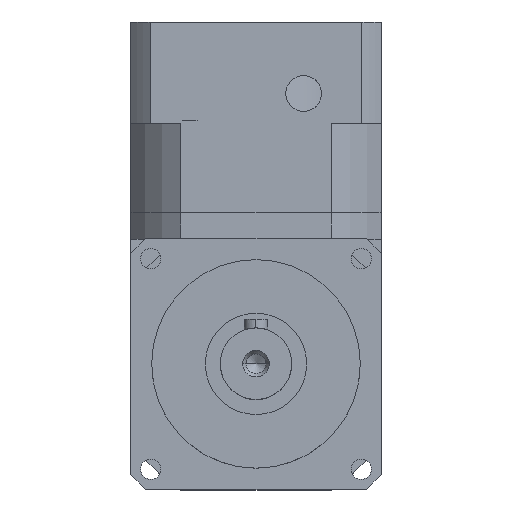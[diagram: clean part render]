
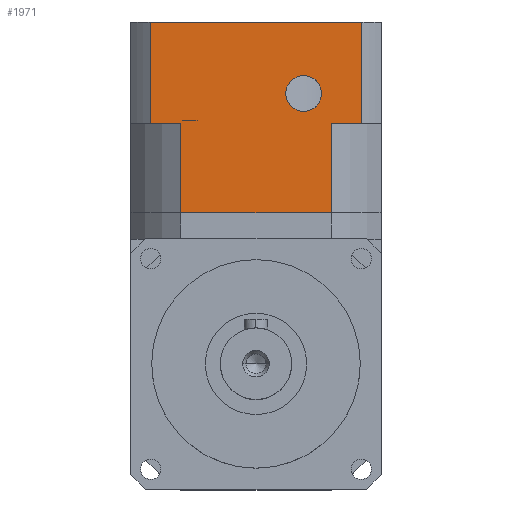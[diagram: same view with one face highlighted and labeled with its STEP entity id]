
A CAD part, top view. The second image highlights one B-rep face of the part: STEP entity #1971.
In plain terms, the highlighted planar face has unit normal (0, 0, 1) as drawn and (0, 1, 0) by its records, which use the part's own axes.
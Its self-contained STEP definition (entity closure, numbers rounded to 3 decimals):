
#102 = ORIENTED_EDGE ( 'NONE', *, *, #5037, .F. ) ;
#113 = CARTESIAN_POINT ( 'NONE',  ( 8., 21., 9. ) ) ;
#172 = EDGE_CURVE ( 'NONE', #1414, #3955, #10490, .T. ) ;
#196 = ORIENTED_EDGE ( 'NONE', *, *, #8836, .F. ) ;
#255 = VERTEX_POINT ( 'NONE', #5818 ) ;
#704 = CARTESIAN_POINT ( 'NONE',  ( 8., 21., 15. ) ) ;
#717 = AXIS2_PLACEMENT_3D ( 'NONE', #4479, #6286, #8852 ) ;
#977 = DIRECTION ( 'NONE',  ( 0., 0., -1. ) ) ;
#1189 = EDGE_CURVE ( 'NONE', #9912, #9079, #10108, .T. ) ;
#1240 = FACE_OUTER_BOUND ( 'NONE', #4260, .T. ) ;
#1252 = VECTOR ( 'NONE', #3737, 1000. ) ;
#1414 = VERTEX_POINT ( 'NONE', #9604 ) ;
#1463 = DIRECTION ( 'NONE',  ( 0., 0., 1. ) ) ;
#1652 = ORIENTED_EDGE ( 'NONE', *, *, #5496, .F. ) ;
#1962 = VECTOR ( 'NONE', #8668, 1000. ) ;
#1971 = ADVANCED_FACE ( 'NONE', ( #7828, #1240 ), #9516, .F. ) ;
#2002 = CARTESIAN_POINT ( 'NONE',  ( -12.619, 21., 32. ) ) ;
#2084 = VECTOR ( 'NONE', #5835, 1000. ) ;
#2183 = CARTESIAN_POINT ( 'NONE',  ( -21., 21., 32. ) ) ;
#2944 = EDGE_CURVE ( 'NONE', #8510, #10773, #6843, .T. ) ;
#3094 = CARTESIAN_POINT ( 'NONE',  ( -21., 21., 17. ) ) ;
#3132 = VECTOR ( 'NONE', #977, 1000. ) ;
#3368 = CIRCLE ( 'NONE', #717, 3. ) ;
#3387 = VERTEX_POINT ( 'NONE', #5313 ) ;
#3563 = EDGE_CURVE ( 'NONE', #3387, #10685, #8444, .T. ) ;
#3611 = CARTESIAN_POINT ( 'NONE',  ( -17.755, 21., 17. ) ) ;
#3685 = DIRECTION ( 'NONE',  ( 1., 0., 0. ) ) ;
#3737 = DIRECTION ( 'NONE',  ( -1., 0., 0. ) ) ;
#3892 = VECTOR ( 'NONE', #4025, 1000. ) ;
#3906 = DIRECTION ( 'NONE',  ( 0., 1., 0. ) ) ;
#3920 = ORIENTED_EDGE ( 'NONE', *, *, #2944, .F. ) ;
#3955 = VERTEX_POINT ( 'NONE', #8875 ) ;
#4025 = DIRECTION ( 'NONE',  ( -1., 0., 0. ) ) ;
#4231 = CARTESIAN_POINT ( 'NONE',  ( -17.755, 21., 32. ) ) ;
#4239 = LINE ( 'NONE', #6724, #3892 ) ;
#4260 = EDGE_LOOP ( 'NONE', ( #8424, #196, #4772, #102, #5176, #6787, #4801, #6057 ) ) ;
#4479 = CARTESIAN_POINT ( 'NONE',  ( 8., 21., 12. ) ) ;
#4526 = CARTESIAN_POINT ( 'NONE',  ( 12.619, 21., 32. ) ) ;
#4772 = ORIENTED_EDGE ( 'NONE', *, *, #172, .F. ) ;
#4801 = ORIENTED_EDGE ( 'NONE', *, *, #6871, .F. ) ;
#4822 = LINE ( 'NONE', #8228, #7809 ) ;
#5037 = EDGE_CURVE ( 'NONE', #255, #1414, #4822, .T. ) ;
#5176 = ORIENTED_EDGE ( 'NONE', *, *, #6595, .F. ) ;
#5185 = LINE ( 'NONE', #10423, #1962 ) ;
#5313 = CARTESIAN_POINT ( 'NONE',  ( 12.619, 21., 32. ) ) ;
#5496 = EDGE_CURVE ( 'NONE', #10773, #8510, #3368, .T. ) ;
#5818 = CARTESIAN_POINT ( 'NONE',  ( 17.755, 21., 0. ) ) ;
#5835 = DIRECTION ( 'NONE',  ( -1., 0., 0. ) ) ;
#5967 = AXIS2_PLACEMENT_3D ( 'NONE', #2183, #8501, #10863 ) ;
#6057 = ORIENTED_EDGE ( 'NONE', *, *, #6909, .F. ) ;
#6099 = VECTOR ( 'NONE', #3685, 1000. ) ;
#6286 = DIRECTION ( 'NONE',  ( 0., 1., 0. ) ) ;
#6329 = VECTOR ( 'NONE', #7092, 1000. ) ;
#6595 = EDGE_CURVE ( 'NONE', #9079, #255, #8617, .T. ) ;
#6724 = CARTESIAN_POINT ( 'NONE',  ( -21., 21., 17. ) ) ;
#6787 = ORIENTED_EDGE ( 'NONE', *, *, #1189, .F. ) ;
#6843 = CIRCLE ( 'NONE', #10554, 3. ) ;
#6871 = EDGE_CURVE ( 'NONE', #9289, #9912, #4239, .T. ) ;
#6909 = EDGE_CURVE ( 'NONE', #10685, #9289, #5185, .T. ) ;
#7092 = DIRECTION ( 'NONE',  ( 0., 0., 1. ) ) ;
#7316 = DIRECTION ( 'NONE',  ( 0., 0., 1. ) ) ;
#7598 = CARTESIAN_POINT ( 'NONE',  ( 0., 21., 32. ) ) ;
#7809 = VECTOR ( 'NONE', #1463, 1000. ) ;
#7828 = FACE_BOUND ( 'NONE', #10507, .T. ) ;
#7974 = CARTESIAN_POINT ( 'NONE',  ( -17.755, 21., 0. ) ) ;
#8228 = CARTESIAN_POINT ( 'NONE',  ( 17.755, 21., 32. ) ) ;
#8424 = ORIENTED_EDGE ( 'NONE', *, *, #3563, .F. ) ;
#8444 = LINE ( 'NONE', #7598, #2084 ) ;
#8501 = DIRECTION ( 'NONE',  ( 0., -1., 0. ) ) ;
#8510 = VERTEX_POINT ( 'NONE', #113 ) ;
#8617 = LINE ( 'NONE', #10331, #6099 ) ;
#8668 = DIRECTION ( 'NONE',  ( 0., 0., -1. ) ) ;
#8780 = LINE ( 'NONE', #4526, #6329 ) ;
#8836 = EDGE_CURVE ( 'NONE', #3955, #3387, #8780, .T. ) ;
#8852 = DIRECTION ( 'NONE',  ( 0., 0., 1. ) ) ;
#8875 = CARTESIAN_POINT ( 'NONE',  ( 12.619, 21., 17. ) ) ;
#9079 = VERTEX_POINT ( 'NONE', #7974 ) ;
#9289 = VERTEX_POINT ( 'NONE', #9366 ) ;
#9366 = CARTESIAN_POINT ( 'NONE',  ( -12.619, 21., 17. ) ) ;
#9516 = PLANE ( 'NONE',  #5967 ) ;
#9604 = CARTESIAN_POINT ( 'NONE',  ( 17.755, 21., 17. ) ) ;
#9912 = VERTEX_POINT ( 'NONE', #3611 ) ;
#10095 = CARTESIAN_POINT ( 'NONE',  ( 8., 21., 12. ) ) ;
#10108 = LINE ( 'NONE', #4231, #3132 ) ;
#10331 = CARTESIAN_POINT ( 'NONE',  ( -21., 21., 0. ) ) ;
#10423 = CARTESIAN_POINT ( 'NONE',  ( -12.619, 21., 17. ) ) ;
#10490 = LINE ( 'NONE', #3094, #1252 ) ;
#10507 = EDGE_LOOP ( 'NONE', ( #1652, #3920 ) ) ;
#10554 = AXIS2_PLACEMENT_3D ( 'NONE', #10095, #3906, #7316 ) ;
#10685 = VERTEX_POINT ( 'NONE', #2002 ) ;
#10773 = VERTEX_POINT ( 'NONE', #704 ) ;
#10863 = DIRECTION ( 'NONE',  ( 0., 0., -1. ) ) ;
